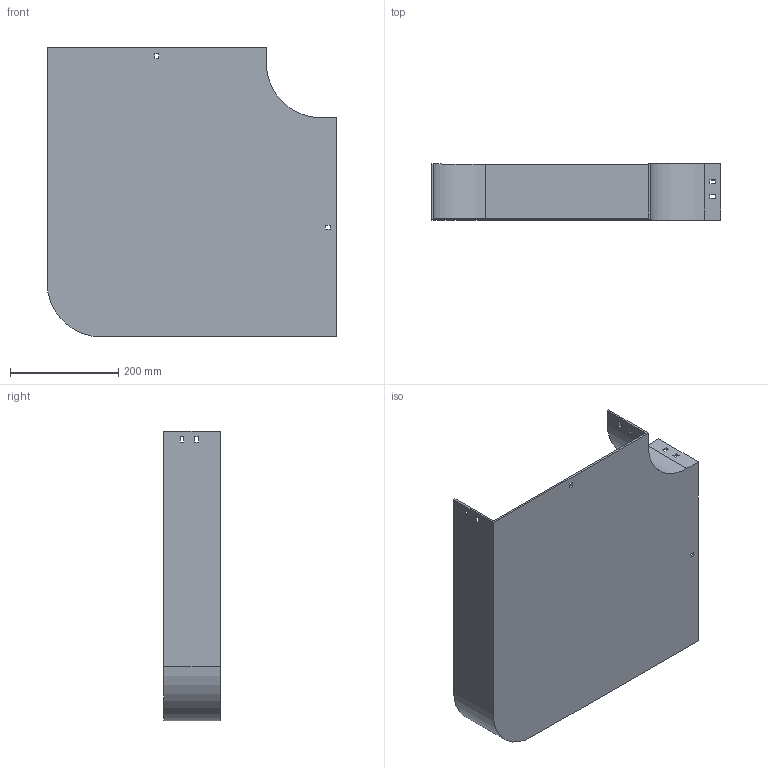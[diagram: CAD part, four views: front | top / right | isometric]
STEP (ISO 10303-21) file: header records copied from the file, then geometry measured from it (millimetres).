
FILE_DESCRIPTION (( 'STEP AP214' ), '1' );
FILE_NAME ('10F1D400.step', '2025-02-21T12:56:37', ( '' ), ( '' ), 'SwSTEP 2.0', 'SolidWorks 2023', '' );
FILE_SCHEMA (( 'AUTOMOTIVE_DESIGN' ));
Length unit declared in the file: millimetre
Products named in the file (1): 10F1D400
Bounding box: 534 x 104 x 534 mm (x, y, z)
Volume: 1373456 mm3; surface area: 794583.6 mm2
Topology: 1 solids, 1 shells, 58 faces, 168 edges, 112 vertices
Faces by surface type: plane 54, cylinder 4
Entity records: 1943 total; most frequent: CARTESIAN_POINT 339, ORIENTED_EDGE 336, DIRECTION 294, EDGE_CURVE 168, VECTOR 160, LINE 160, VERTEX_POINT 112, EDGE_LOOP 78
